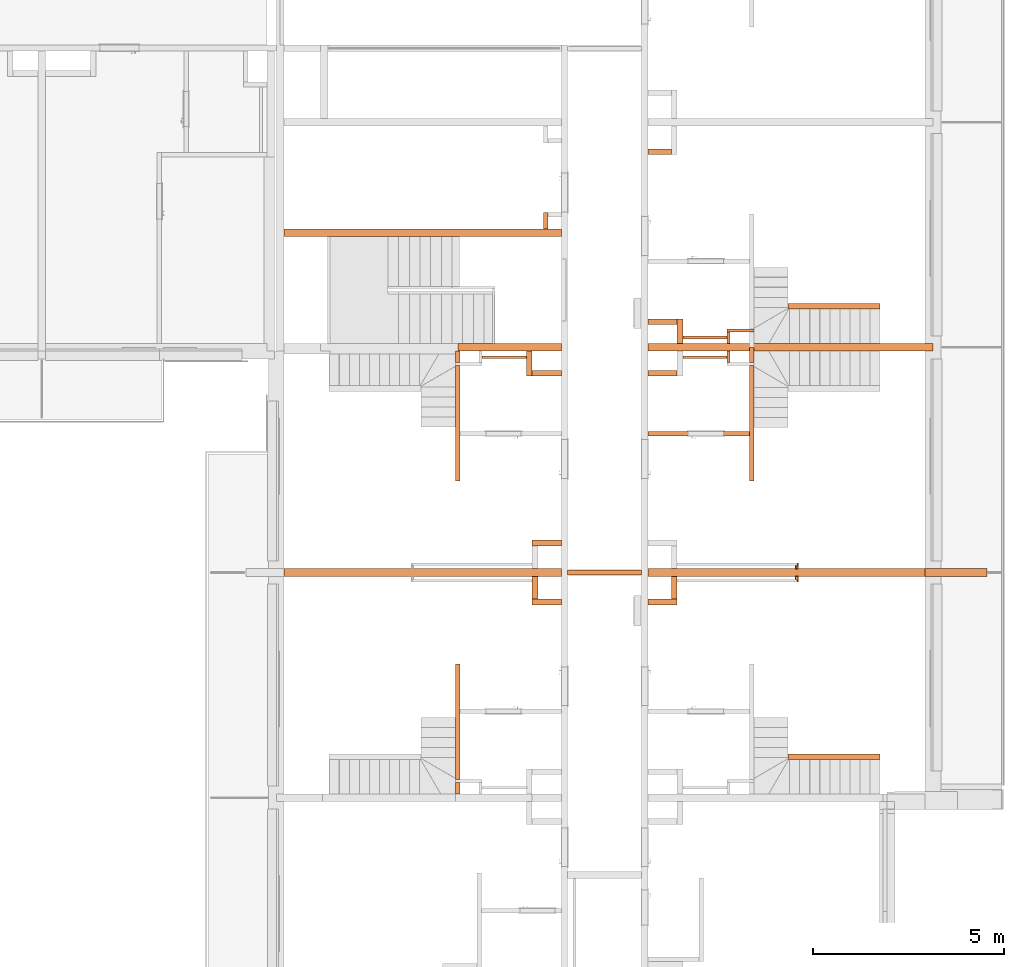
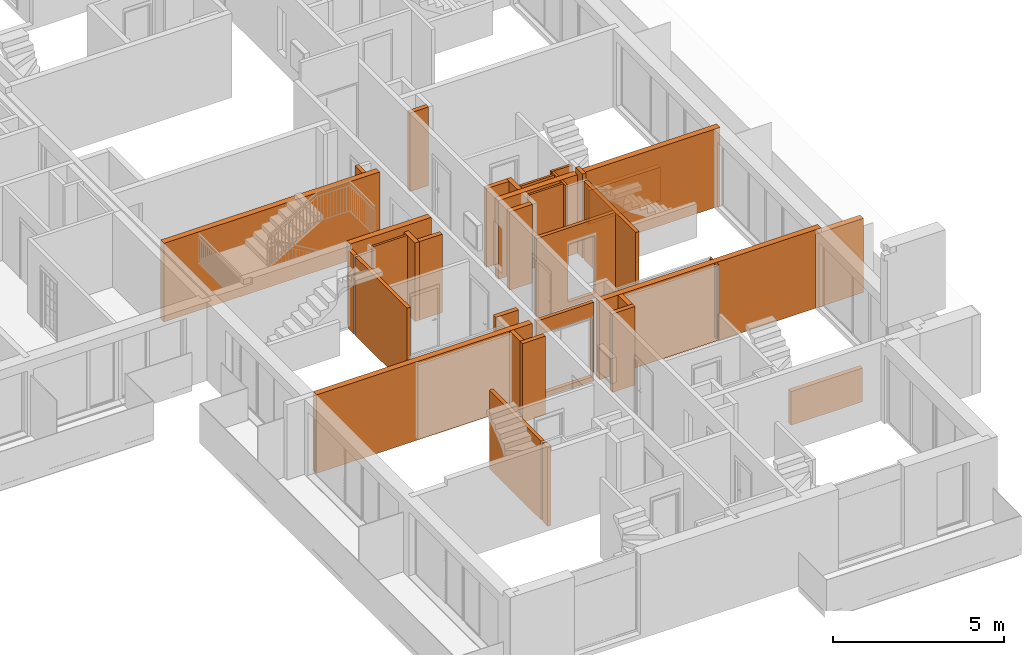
# One storey, part 59 of 61: 33 proxies, 2 openings.
"""IFC2X3 building model written with IfcOpenShell, lengths in millimetres."""

import ifcopenshell
import ifcopenshell.guid

model = None  # the IFC model being written
_history = None  # IfcOwnerHistory: only IFC2X3 demands one
_inside = {}  # id of a spatial element -> (the spatial element, [elements in it])
_under = {}  # id of a project, library or spatial element -> (it, [spatial elements below it])
_declared = {}  # id of a project -> (the project, [libraries it declares])
_typed = {}  # id of a type object -> (the type object, [elements of that type])
_made_of = {}  # id of a material, layer set ... -> (it, [elements and type objects made of it])


def new_model(schema):
    """Start an empty IFC model of exactly this schema.

    Asked for "IFC4X3", IfcOpenShell would pick the latest addendum, in which some entities
    have other attributes; the version numbers below select the first issue.
    IFC2X3 requires an IfcOwnerHistory on every rooted entity: one is made here for all.
    """
    global model, _history
    if schema == "IFC4X3":
        model = ifcopenshell.file(schema_version=(4, 3, 0, 0))
    else:
        model = ifcopenshell.file(schema=schema)
    _inside.clear()
    _under.clear()
    _declared.clear()
    _typed.clear()
    _made_of.clear()
    _history = None
    if model.schema == "IFC2X3":
        org = make("IfcOrganization", Name="unknown")
        user = make(
            "IfcPersonAndOrganization",
            ThePerson=make("IfcPerson", FamilyName="unknown"),
            TheOrganization=org,
        )
        app = make(
            "IfcApplication",
            ApplicationDeveloper=org,
            Version="unknown",
            ApplicationFullName="unknown",
            ApplicationIdentifier="unknown",
        )
        _history = make(
            "IfcOwnerHistory",
            OwningUser=user,
            OwningApplication=app,
            ChangeAction="ADDED",
            CreationDate=0,
        )
    return model


def make(cls, **values):
    """One entity of the class cls with the attributes given. An attribute that is None is left unset."""
    return model.create_entity(
        cls, **{name: value for name, value in values.items() if value is not None}
    )


def entity(cls, *values):
    """Any entity or typed value of the class cls, its attributes in the order of the schema. None: left unset."""
    e = model.create_entity(cls)
    for i, value in enumerate(values):
        if value is not None:
            e[i] = value
    return e


def rooted(cls, **values):
    """An entity with a GlobalId (a new one), such as an element, a storey or a relation."""
    return make(cls, GlobalId=ifcopenshell.guid.new(), OwnerHistory=_history, **values)


def si_unit(unit_type, name, prefix=None):
    """IfcSIUnit, for example si_unit("LENGTHUNIT", "METRE", prefix="MILLI")."""
    return make("IfcSIUnit", UnitType=unit_type, Prefix=prefix, Name=name)


def converted_unit(unit_type, name, factor, base, dimensions=None, offset=None):
    """IfcConversionBasedUnit, such as the inch: factor (a typed value) times the base unit."""
    return make(
        "IfcConversionBasedUnit"
        if offset is None
        else "IfcConversionBasedUnitWithOffset",
        ConversionOffset=offset,
        Dimensions=None
        if dimensions is None
        else entity("IfcDimensionalExponents", *dimensions),
        UnitType=unit_type,
        Name=name,
        ConversionFactor=make(
            "IfcMeasureWithUnit", ValueComponent=factor, UnitComponent=base
        ),
    )


def derived_unit(unit_type, elements):
    """IfcDerivedUnit: a product of units, each with its exponent."""
    return make(
        "IfcDerivedUnit",
        Elements=[
            make("IfcDerivedUnitElement", Unit=unit, Exponent=power)
            for unit, power in elements
        ],
        UnitType=unit_type,
    )


def money_unit(currency):
    """IfcMonetaryUnit."""
    return make("IfcMonetaryUnit", Currency=currency)


def assignment(units):
    """IfcUnitAssignment: the units of a project."""
    return None if units is None else make("IfcUnitAssignment", Units=units)


def point(xyz):
    """IfcCartesianPoint."""
    return None if xyz is None else make("IfcCartesianPoint", Coordinates=xyz)


def direction(xyz):
    """IfcDirection."""
    return None if xyz is None else make("IfcDirection", DirectionRatios=xyz)


def frame(location, z_axis=None, x_axis=None):
    """IfcAxis2Placement3D, a coordinate frame: its origin and axes. An axis left out is left unset."""
    return make(
        "IfcAxis2Placement3D",
        Location=point(location),
        Axis=direction(z_axis),
        RefDirection=direction(x_axis),
    )


def frame_2d(location, x_axis=None):
    """IfcAxis2Placement2D, a coordinate frame in the plane: its origin and x axis."""
    return make(
        "IfcAxis2Placement2D", Location=point(location), RefDirection=direction(x_axis)
    )


def origin_with_axes():
    """The frame at (0, 0, 0) with the z axis (0, 0, 1) and the x axis (1, 0, 0) written out."""
    return frame((0.0, 0.0, 0.0), z_axis=(0.0, 0.0, 1.0), x_axis=(1.0, 0.0, 0.0))


def origin_2d_with_axis():
    """The frame at (0, 0) in the plane with the x axis (1, 0) written out."""
    return frame_2d((0.0, 0.0), x_axis=(1.0, 0.0))


def place(relative_to, where):
    """IfcLocalPlacement: puts the frame where relative to a parent placement (None: the world)."""
    return make(
        "IfcLocalPlacement", PlacementRelTo=relative_to, RelativePlacement=where
    )


def context(
    kind, dimensions, precision=None, world=None, true_north=None, identifier=None
):
    """IfcGeometricRepresentationContext, for example the 3D "Model" context."""
    return make(
        "IfcGeometricRepresentationContext",
        ContextIdentifier=identifier,
        ContextType=kind,
        CoordinateSpaceDimension=dimensions,
        Precision=precision,
        WorldCoordinateSystem=world,
        TrueNorth=true_north,
    )


def subcontext(parent, identifier, kind, view, scale=None):
    """IfcGeometricRepresentationSubContext, for example "Body" below "Model"."""
    return make(
        "IfcGeometricRepresentationSubContext",
        ContextIdentifier=identifier,
        ContextType=kind,
        ParentContext=parent,
        TargetScale=scale,
        TargetView=view,
    )


def project(units=None, contexts=None):
    """IfcProject with its units and contexts."""
    return rooted(
        "IfcProject",
        Name="project",
        RepresentationContexts=contexts,
        UnitsInContext=assignment(units),
    )


def spatial(cls, under=None, at=None, **own):
    """A site, building, storey or space (cls), placed at a placement, below another one or the project."""
    s = rooted(cls, ObjectPlacement=at, **own)
    if under is not None:
        _under.setdefault(under.id(), (under, []))[1].append(s)
    return s


def profile(cls, at=None, kind="AREA", **sizes):
    """A parametric profile (cls). Its sizes go by their IFC names, for example OverallWidth=200.0."""
    return make(cls, ProfileType=kind, Position=at, **sizes)


def rectangle(**sizes):
    """IfcRectangleProfileDef."""
    return profile("IfcRectangleProfileDef", **sizes)


def extrude(swept, where, along, depth):
    """IfcExtrudedAreaSolid: the profile swept, set in the frame where, extruded along a direction by depth."""
    return make(
        "IfcExtrudedAreaSolid",
        SweptArea=swept,
        Position=where,
        ExtrudedDirection=direction(along),
        Depth=depth,
    )


def faces_of(points, faces, orient=None, outer=None):
    """IfcFace entities. A face is a list of loops; a loop is a list of indices into points, from 0.

    orient and outer hold one flag for each loop. By default every Orientation is true, the
    first loop of a face is its IfcFaceOuterBound and the others are IfcFaceBound.
    """
    made = []
    for i, loops in enumerate(faces):
        bounds = []
        for j, loop in enumerate(loops):
            is_outer = j == 0 if outer is None else outer[i][j]
            bounds.append(
                make(
                    "IfcFaceOuterBound" if is_outer else "IfcFaceBound",
                    Bound=make("IfcPolyLoop", Polygon=[points[k] for k in loop]),
                    Orientation=True if orient is None else orient[i][j],
                )
            )
        made.append(make("IfcFace", Bounds=bounds))
    return made


def faceted_brep(points, faces, orient=None, outer=None, voids=None):
    """IfcFacetedBrep: a solid bounded by flat faces; with voids (closed shells), ...WithVoids."""
    shared = [point(p) for p in points]
    hull = make("IfcClosedShell", CfsFaces=faces_of(shared, faces, orient, outer))
    if voids is None:
        return make("IfcFacetedBrep", Outer=hull)
    return make(
        "IfcFacetedBrepWithVoids",
        Outer=hull,
        Voids=[
            make(cls, CfsFaces=faces_of(shared, fs, o, b)) for cls, fs, o, b in voids
        ],
    )


def shape(context_of_items, identifier, shape_type, items):
    """IfcShapeRepresentation: the items that make up one representation, for example the "Body"."""
    return make(
        "IfcShapeRepresentation",
        ContextOfItems=context_of_items,
        RepresentationIdentifier=identifier,
        RepresentationType=shape_type,
        Items=items,
    )


def material(Name=None, Category=None):
    """IfcMaterial."""
    return make("IfcMaterial", Name=Name, Category=Category)


def material_list(materials):
    """IfcMaterialList."""
    return make("IfcMaterialList", Materials=materials)


def made_of(thing, what):
    """Note that an element or type object is made of a material, layer set ...; save() writes the relation."""
    if what is not None:
        _made_of.setdefault(what.id(), (what, []))[1].append(thing)
    return thing


def type_object(cls, material=None, **own):
    """A type object (cls), such as IfcWallType, which elements share."""
    return made_of(rooted(cls, **own), material)


def element(
    cls,
    number,
    at=None,
    inside=None,
    cuts=None,
    type_object=None,
    material=None,
    context=None,
    identifier="Body",
    shape_type=None,
    held_by="IfcProductDefinitionShape",
    body=None,
    shapes=None,
    **own,
):
    """One element of the class cls, such as IfcWall. Its Tag is "e" and its number.

    at: its placement. inside: the storey or other place that contains it. cuts: it is an
    opening in that element (IfcRelVoidsElement). A single representation is given by context,
    identifier, shape_type and body (its items); several are given by shapes. held_by: the class
    of the entity that holds the representations. save() writes the other relations.
    """
    e = rooted(cls, Tag="e%d" % number, ObjectPlacement=at, **own)
    if body is not None:
        shapes = [shape(context, identifier, shape_type, body)]
    if shapes is not None:
        e.Representation = make(held_by, Representations=shapes)
    if inside is not None:
        _inside.setdefault(inside.id(), (inside, []))[1].append(e)
    if cuts is not None:
        rooted(
            "IfcRelVoidsElement", RelatingBuildingElement=cuts, RelatedOpeningElement=e
        )
    if type_object is not None:
        _typed.setdefault(type_object.id(), (type_object, []))[1].append(e)
    return made_of(e, material)


def aggregate(whole, parts):
    """IfcRelAggregates: a whole, such as a stair, and the parts it consists of."""
    return rooted("IfcRelAggregates", RelatingObject=whole, RelatedObjects=parts)


def save(model, path):
    """Write the relations noted so far, then the file.

    IfcRelAggregates (storeys below a building ...), IfcRelContainedInSpatialStructure (elements
    in a storey), IfcRelDefinesByType, IfcRelAssociatesMaterial and IfcRelDeclares: one each for
    every whole, place, type object, material and project.
    """
    for whole, parts in _under.values():
        aggregate(whole, parts)
    for where, things in _inside.values():
        rooted(
            "IfcRelContainedInSpatialStructure",
            RelatedElements=things,
            RelatingStructure=where,
        )
    for kind, things in _typed.values():
        rooted("IfcRelDefinesByType", RelatedObjects=things, RelatingType=kind)
    for what, things in _made_of.values():
        rooted("IfcRelAssociatesMaterial", RelatedObjects=things, RelatingMaterial=what)
    for by, libraries in _declared.values():
        rooted("IfcRelDeclares", RelatingContext=by, RelatedDefinitions=libraries)
    model.write(path)


model = new_model("IFC2X3")

# Units and contexts
model_context = context("Model", 3, precision=0.01, world=origin_with_axes(), true_north=direction((0.34421633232, 0.938890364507)))
body_context = subcontext(model_context, "Body", "Model", "MODEL_VIEW")
ifc_project = project(units=[si_unit("LENGTHUNIT", "METRE", prefix="MILLI"), si_unit("AREAUNIT", "SQUARE_METRE"), si_unit("VOLUMEUNIT", "CUBIC_METRE"), converted_unit("PLANEANGLEUNIT", "DEGREE", entity("IfcPlaneAngleMeasure", 0.0174532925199), si_unit("PLANEANGLEUNIT", "RADIAN"), dimensions=[0, 0, 0, 0, 0, 0, 0]), si_unit("SOLIDANGLEUNIT", "STERADIAN"), money_unit("USD"), converted_unit("TIMEUNIT", "Year", entity("IfcTimeMeasure", 31556926.0), si_unit("TIMEUNIT", "SECOND"), dimensions=[0, 0, 1, 0, 0, 0, 0]), si_unit("MASSUNIT", "GRAM", prefix="KILO"), si_unit("THERMODYNAMICTEMPERATUREUNIT", "DEGREE_CELSIUS"), si_unit("LUMINOUSINTENSITYUNIT", "LUMEN"), si_unit("ENERGYUNIT", "JOULE", prefix="MEGA"), derived_unit("THERMALCONDUCTANCEUNIT", [(si_unit("POWERUNIT", "WATT"), 1), (si_unit("LENGTHUNIT", "METRE"), -1), (si_unit("THERMODYNAMICTEMPERATUREUNIT", "KELVIN"), -1)]), derived_unit("SPECIFICHEATCAPACITYUNIT", [(si_unit("ENERGYUNIT", "JOULE"), 1), (si_unit("MASSUNIT", "GRAM", prefix="KILO"), -1), (si_unit("THERMODYNAMICTEMPERATUREUNIT", "KELVIN"), -1)]), derived_unit("MASSDENSITYUNIT", [(si_unit("MASSUNIT", "GRAM", prefix="KILO"), 1), (si_unit("VOLUMEUNIT", "CUBIC_METRE"), -1)])], contexts=[model_context])

# Site, building, storey
site_placement = place(None, origin_with_axes())
site = spatial("IfcSite", under=ifc_project, at=site_placement, Name="USTRONIE MORSKIE", CompositionType="ELEMENT")
building_placement = place(site_placement, origin_with_axes())
building = spatial("IfcBuilding", under=site, at=building_placement, Name="Budynek", CompositionType="ELEMENT")
storey_placement = place(building_placement, frame((0.0, 0.0, 13000.0), z_axis=(0.0, 0.0, 1.0), x_axis=(1.0, 0.0, 0.0)))
storey = spatial("IfcBuildingStorey", under=building, at=storey_placement, Name="PIĘTRO 4", CompositionType="ELEMENT", Elevation=13000.0)

# Proxy, opening
ifc_material_1 = material(Name="Bloczki silikatowe")
building_element_proxy_type_1 = type_object("IfcBuildingElementProxyType", Name="Bloczki silikatowe 120", PredefinedType="NOTDEFINED")
proxy_1_placement = place(storey_placement, frame((420917.920919, 724641.180542, -160.0), z_axis=(0.0, 0.0, 1.0), x_axis=(-1.0, 0.0, 0.0)))
proxy_1 = element("IfcBuildingElementProxy", 1, at=proxy_1_placement, inside=storey, type_object=building_element_proxy_type_1, material=ifc_material_1, Name="SW-04", context=body_context, shape_type="Brep", body=[
    faceted_brep([(2720.0, 59.9999999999, 0.0), (2720.0, -59.9999999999, 0.0), (60.0, -59.9999999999, 0.0), (60.0, 59.9999999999, 0.0), (2720.0, 59.9999999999, 2800.0), (2720.0, -59.9999999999, 2800.0), (60.0, -59.9999999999, 2800.0), (60.0, 59.9999999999, 2800.0)], [[[0, 1, 2, 3]], [[1, 0, 4, 5]], [[1, 5, 6, 2]], [[7, 3, 2, 6]], [[4, 0, 3, 7]], [[5, 4, 7, 6]]]),
])
opening_1_placement = place(proxy_1_placement, frame((1200.0, 0.0, 160.0), z_axis=(0.0, 0.0, 1.0), x_axis=(1.0, 0.0, 0.0)))
element("IfcOpeningElement", 2, at=opening_1_placement, cuts=proxy_1, Name="Dw.4", context=body_context, shape_type="SweptSolid", body=[
    extrude(rectangle(XDim=920.0, YDim=2070.0, at=origin_2d_with_axis()), frame((0.0, -120.0, 1035.0), z_axis=(0.0, -1.0, 0.0), x_axis=(-1.0, 0.0, 0.0)), (0.0, 0.0, -1.0), 360.0),
    extrude(rectangle(XDim=994.0, YDim=2177.0, at=origin_2d_with_axis()), frame((0.0, -59.9999999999, 1088.5), z_axis=(0.0, -1.0, 0.0), x_axis=(-1.0, 0.0, 0.0)), (0.0, 0.0, 1.0), 120.0),
    extrude(rectangle(XDim=994.0, YDim=2177.0, at=origin_2d_with_axis()), frame((0.0, 60.0000000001, 1088.5), z_axis=(0.0, 1.0, 0.0), x_axis=(-1.0, 0.0, 0.0)), (0.0, 0.0, 1.0), 120.0),
])

# Proxy
proxy_2_placement = place(storey_placement, frame((413217.920919, 715101.199036, -160.0), z_axis=(0.0, 0.0, 1.0), x_axis=(0.0, 1.0, 0.0)))
element("IfcBuildingElementProxy", 3, at=proxy_2_placement, inside=storey, type_object=building_element_proxy_type_1, material=ifc_material_1, Name="SW-04", context=body_context, shape_type="Brep", body=[
    faceted_brep([(480.000444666, 60.0, 0.0), (3499.99837346, 60.0, 0.0), (3499.99837346, -60.0, 0.0), (480.000444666, -60.0, 0.0), (480.000444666, 60.0, 2800.0), (3499.99837346, 60.0, 2800.0), (3499.99837346, -60.0, 2800.0), (480.000444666, -60.0, 2800.0)], [[[0, 1, 2, 3]], [[4, 5, 1, 0]], [[2, 1, 5, 6]], [[3, 2, 6, 7]], [[4, 0, 3, 7]], [[7, 6, 5, 4]]]),
    faceted_brep([(400.000444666, 60.0, 0.0), (400.000444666, -60.0, 0.0), (99.9999880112, -60.0, 0.0), (99.9999874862, 60.0, 0.0), (400.000444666, 60.0, 2800.0), (400.000444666, -60.0, 2800.0), (99.9999880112, -60.0, 2800.0), (99.9999874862, 60.0, 2800.0)], [[[0, 1, 2, 3]], [[1, 0, 4, 5]], [[1, 5, 6, 2]], [[7, 3, 2, 6]], [[4, 0, 3, 7]], [[5, 4, 7, 6]]]),
])

# Proxy, opening
proxy_3_placement = place(storey_placement, frame((416017.920919, 721001.199036, -160.0), z_axis=(0.0, 0.0, 1.0), x_axis=(1.0, 0.0, 0.0)))
proxy_3 = element("IfcBuildingElementProxy", 4, at=proxy_3_placement, inside=storey, type_object=building_element_proxy_type_1, material=ifc_material_1, Name="SW-04", context=body_context, shape_type="Brep", body=[
    faceted_brep([(2020.0, 59.9999999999, 0.0), (80.0, 59.9999999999, 0.0), (80.0, 59.9999999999, 2800.0), (2020.0, 59.9999999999, 2800.0), (2020.0, -59.9999999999, 0.0), (80.0, -59.9999999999, 0.0), (80.0, -59.9999999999, 2800.0), (2020.0, -59.9999999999, 2800.0)], [[[0, 1, 2, 3]], [[4, 5, 1, 0]], [[5, 6, 2, 1]], [[3, 2, 6, 7]], [[3, 7, 4, 0]], [[7, 6, 5, 4]]]),
])
opening_2_placement = place(proxy_3_placement, frame((1050.0, 0.0, 160.0), z_axis=(0.0, 0.0, 1.0), x_axis=(1.0, 0.0, 0.0)))
element("IfcOpeningElement", 5, at=opening_2_placement, cuts=proxy_3, Name="Dw.5s", context=body_context, shape_type="SweptSolid", body=[
    extrude(rectangle(XDim=1820.0, YDim=2120.0, at=origin_2d_with_axis()), frame((0.0, -120.0, 1060.0), z_axis=(0.0, 1.0, 0.0), x_axis=(1.0, 0.0, 0.0)), (0.0, 0.0, 1.0), 360.0),
    extrude(rectangle(XDim=1894.0, YDim=2157.0, at=origin_2d_with_axis()), frame((0.0, -59.9999999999, 1078.5), z_axis=(0.0, 1.0, 0.0), x_axis=(1.0, 0.0, 0.0)), (0.0, 0.0, -1.0), 120.0),
    extrude(rectangle(XDim=1894.0, YDim=2157.0, at=origin_2d_with_axis()), frame((0.0, 60.0000000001, 1078.5), z_axis=(0.0, -1.0, 0.0), x_axis=(1.0, 0.0, 0.0)), (0.0, 0.0, -1.0), 120.0),
])

# Proxies
proxy_4_placement = place(storey_placement, frame((420917.920919, 726901.198998, -160.0), z_axis=(0.0, 0.0, 1.0), x_axis=(0.0, -1.0, 0.0)))
element("IfcBuildingElementProxy", 6, at=proxy_4_placement, inside=storey, type_object=building_element_proxy_type_1, material=ifc_material_1, Name="SW-04", context=body_context, shape_type="Brep", body=[
    faceted_brep([(480.000444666, -60.0, 2800.0), (3499.97686691, -60.0, 2800.0), (3499.97686691, 60.0, 2800.0), (2099.99996266, 60.0, 2800.0), (480.000444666, 60.0, 2800.0), (3499.97686691, -60.0, 0.0), (480.000444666, -60.0, 0.0), (3499.97686691, 60.0, 0.0), (480.000444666, 60.0, 0.0)], [[[0, 1, 2, 3, 4]], [[5, 1, 0, 6]], [[7, 2, 1, 5]], [[4, 3, 2, 7, 8]], [[6, 0, 4, 8]], [[7, 5, 6, 8]]]),
    faceted_brep([(0.0, -60.0, 3000.0), (400.000444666, -60.0, 3000.0), (400.000444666, 60.0, 3000.0), (0.0, 60.0, 3000.0), (400.000444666, -60.0, 0.0), (400.000444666, -60.0, 2800.0), (0.0, -60.0, 2800.0), (99.9999622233, -60.0, 2800.0), (99.9999622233, -60.0, 0.0), (400.000444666, 60.0, 2800.0), (400.000444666, 60.0, 0.0), (99.9999622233, 60.0, 0.0), (99.9999622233, 60.0, 2800.0), (0.0, 60.0, 2800.0)], [[[0, 1, 2, 3]], [[4, 5, 1, 0, 6, 7, 8]], [[5, 9, 2, 1]], [[3, 2, 9, 10, 11, 12, 13]], [[0, 3, 13, 6]], [[10, 9, 5, 4]], [[12, 7, 6, 13]], [[8, 7, 12, 11]], [[8, 11, 10, 4]]]),
])
proxy_5_placement = place(storey_placement, frame((413217.920919, 726901.198998, -160.0), z_axis=(0.0, 0.0, 1.0), x_axis=(0.0, -1.0, 0.0)))
element("IfcBuildingElementProxy", 7, at=proxy_5_placement, inside=storey, type_object=building_element_proxy_type_1, material=ifc_material_1, Name="SW-04", context=body_context, shape_type="Brep", body=[
    faceted_brep([(400.000444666, 60.0, 0.0), (99.9999622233, 60.0, 0.0), (99.9999622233, 60.0, 2800.0), (400.000444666, 60.0, 2800.0), (99.9999622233, -60.0, 0.0), (99.9999622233, 0.0, 0.0), (400.000444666, -60.0, 0.0), (99.9999622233, 0.0, 2800.0), (99.9999622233, -60.0, 2800.0), (400.000444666, -60.0, 2800.0)], [[[0, 1, 2, 3]], [[4, 5, 1, 0, 6]], [[5, 7, 2, 1]], [[2, 7, 8, 9, 3]], [[6, 0, 3, 9]], [[4, 8, 7, 5]], [[9, 8, 4, 6]]]),
    faceted_brep([(480.000444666, 60.0, 0.0), (480.000444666, 60.0, 2800.0), (3499.97686691, 60.0, 2800.0), (3499.97686691, 60.0, 0.0), (480.000444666, -60.0, 2800.0), (480.000444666, -60.0, 0.0), (3499.97686691, -60.0, 2800.0), (3499.97686691, -60.0, 0.0)], [[[0, 1, 2, 3]], [[4, 1, 0, 5]], [[1, 4, 6, 2]], [[3, 2, 6, 7]], [[5, 0, 3, 7]], [[4, 5, 7, 6]]]),
])
proxy_6_placement = place(storey_placement, frame((415587.920919, 729901.198865, -160.0), z_axis=(0.0, 0.0, 1.0), x_axis=(0.0, 1.0, 0.0)))
element("IfcBuildingElementProxy", 8, at=proxy_6_placement, inside=storey, type_object=building_element_proxy_type_1, material=ifc_material_1, Name="SW-04", context=body_context, shape_type="Brep", body=[
    faceted_brep([(540.000171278, 120.0, 0.0), (540.000171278, 0.0, 0.0), (100.000152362, 0.0, 0.0), (100.000147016, 120.0, 0.0), (540.000171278, 120.0, 2800.0), (540.000171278, 0.0, 2800.0), (100.000152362, 0.0, 2800.0), (100.000147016, 120.0, 2800.0)], [[[0, 1, 2, 3]], [[1, 0, 4, 5]], [[1, 5, 6, 2]], [[7, 3, 2, 6]], [[4, 0, 3, 7]], [[5, 4, 7, 6]]]),
])
ifc_material_2 = material(Name="Płyta GK")
ifc_material_3 = material(Name="-Pustka powietrzna")
ifc_material_list_1 = material_list([ifc_material_2, ifc_material_2, ifc_material_3])
building_element_proxy_type_2 = type_object("IfcBuildingElementProxyType", Name="330-SD GK 2-warstwy 75", PredefinedType="NOTDEFINED")
proxy_7_placement = place(storey_placement, frame((422117.920919, 721001.199036, -180.0), z_axis=(0.0, 0.0, 1.0), x_axis=(0.0, -1.0, 0.0)))
element("IfcBuildingElementProxy", 9, at=proxy_7_placement, inside=storey, type_object=building_element_proxy_type_2, material=ifc_material_list_1, Name="Ściana-009", context=body_context, shape_type="Brep", body=[
    faceted_brep([(242.5, 25.0, 165.0), (100.0, 25.0, 165.0), (100.0, 25.0, 2819.99999891), (242.5, 25.0, 2820.0), (100.0, 12.5, 165.0), (242.5, 12.5, 165.0), (100.0, 12.5, 2819.99999891), (242.5, 12.5, 2820.0)], [[[0, 1, 2, 3]], [[4, 1, 0, 5]], [[1, 4, 6, 2]], [[3, 2, 6, 7]], [[5, 0, 3, 7]], [[4, 5, 7, 6]]]),
    faceted_brep([(230.0, 12.5, 165.0), (100.0, 12.5, 165.0), (100.0, 12.5, 2819.99999891), (230.0, 12.5, 2820.0), (100.0, 0.0, 165.0), (230.0, 0.0, 165.0), (100.0, 0.0, 2819.99999892), (230.0, 0.0, 2820.0)], [[[0, 1, 2, 3]], [[4, 1, 0, 5]], [[1, 4, 6, 2]], [[3, 2, 6, 7]], [[5, 0, 3, 7]], [[4, 5, 7, 6]]]),
    faceted_brep([(180.0, 0.0, 180.0), (100.0, 0.0, 180.0), (100.0, 0.0, 2819.99999892), (180.0, 0.0, 2820.0), (100.0, -50.0, 180.0), (180.0, -50.0, 180.0), (100.0, -50.0, 2819.99999893), (180.0, -50.0, 2820.0)], [[[0, 1, 2, 3]], [[4, 1, 0, 5]], [[1, 4, 6, 2]], [[3, 2, 6, 7]], [[5, 0, 3, 7]], [[4, 5, 7, 6]]]),
])
proxy_8_placement = place(storey_placement, frame((420317.920919, 726631.200807, -180.0), z_axis=(0.0, 0.0, 1.0), x_axis=(-1.0, 0.0, 0.0)))
element("IfcBuildingElementProxy", 10, at=proxy_8_placement, inside=storey, type_object=building_element_proxy_type_2, material=ifc_material_list_1, Name="Ściana-009", context=body_context, shape_type="Brep", body=[
    faceted_brep([(40.0, 25.0, 165.0), (40.0, 12.5, 165.0), (40.0, 12.5, 2820.0), (40.0, 25.0, 2820.0), (1199.99909883, 12.5, 165.0), (1199.99909883, 25.0, 165.0), (1199.99909883, 12.5, 2820.0), (1199.99909883, 25.0, 2820.0)], [[[0, 1, 2, 3]], [[4, 1, 0, 5]], [[1, 4, 6, 2]], [[2, 6, 7, 3]], [[5, 0, 3, 7]], [[4, 5, 7, 6]]]),
    faceted_brep([(40.0, 12.5, 165.0), (40.0, 0.0, 165.0), (40.0, 0.0, 2820.0), (40.0, 12.5, 2820.0), (1199.99909883, 0.0, 165.0), (1199.99909883, 12.5, 165.0), (1199.99909883, 0.0, 2820.0), (1199.99909883, 12.5, 2820.0)], [[[0, 1, 2, 3]], [[4, 1, 0, 5]], [[1, 4, 6, 2]], [[2, 6, 7, 3]], [[5, 0, 3, 7]], [[4, 5, 7, 6]]]),
    faceted_brep([(40.0, 0.0, 180.0), (40.0, -50.0, 180.0), (40.0, -50.0, 2820.0), (40.0, 0.0, 2820.0), (1199.99909883, -50.0, 180.0), (1199.99909883, 0.0, 180.0), (1199.99909883, -50.0, 2820.0), (1199.99909883, 0.0, 2820.0)], [[[0, 1, 2, 3]], [[4, 1, 0, 5]], [[1, 4, 6, 2]], [[2, 6, 7, 3]], [[5, 0, 3, 7]], [[4, 5, 7, 6]]]),
])
ifc_material_list_2 = material_list([ifc_material_3, ifc_material_2, ifc_material_2])
proxy_9_placement = place(storey_placement, frame((420317.920919, 727171.200737, -180.0), z_axis=(0.0, 0.0, 1.0), x_axis=(-1.0, 0.0, 0.0)))
element("IfcBuildingElementProxy", 11, at=proxy_9_placement, inside=storey, type_object=building_element_proxy_type_2, material=ifc_material_list_2, Name="Ściana-009", context=body_context, shape_type="Brep", body=[
    faceted_brep([(40.0, 50.0, 180.0), (40.0, 0.0, 180.0), (40.0, 0.0, 2820.0), (40.0, 50.0, 2820.0), (1199.99909883, 0.0, 180.0), (1199.99909883, 50.0, 180.0), (1199.99909883, 0.0, 2820.0), (1199.99909883, 50.0, 2820.0)], [[[0, 1, 2, 3]], [[4, 1, 0, 5]], [[1, 4, 6, 2]], [[2, 6, 7, 3]], [[5, 0, 3, 7]], [[4, 5, 7, 6]]]),
    faceted_brep([(40.0, 0.0, 165.0), (40.0, -12.5, 165.0), (40.0, -12.5, 2820.0), (40.0, 0.0, 2820.0), (1199.99909883, -12.5, 165.0), (1199.99909883, 0.0, 165.0), (1199.99909883, -12.5, 2820.0), (1199.99909883, 0.0, 2820.0)], [[[0, 1, 2, 3]], [[4, 1, 0, 5]], [[1, 4, 6, 2]], [[2, 6, 7, 3]], [[5, 0, 3, 7]], [[4, 5, 7, 6]]]),
    faceted_brep([(40.0, -12.5, 165.0), (40.0, -25.0, 165.0), (40.0, -25.0, 2820.0), (40.0, -12.5, 2820.0), (1199.99909883, -25.0, 165.0), (1199.99909883, -12.5, 165.0), (1199.99909883, -25.0, 2820.0), (1199.99909883, -12.5, 2820.0)], [[[0, 1, 2, 3]], [[4, 1, 0, 5]], [[1, 4, 6, 2]], [[2, 6, 7, 3]], [[5, 0, 3, 7]], [[4, 5, 7, 6]]]),
])
proxy_10_placement = place(storey_placement, frame((422117.920919, 721001.199036, -180.0), z_axis=(0.0, 0.0, 1.0), x_axis=(0.0, 1.0, 0.0)))
element("IfcBuildingElementProxy", 12, at=proxy_10_placement, inside=storey, type_object=building_element_proxy_type_2, material=ifc_material_list_2, Name="Ściana-009", context=body_context, shape_type="Brep", body=[
    faceted_brep([(100.0, 0.0, 180.0), (180.0, 0.0, 180.0), (180.0, 0.0, 2820.0), (100.0, 0.0, 2819.99999892), (180.0, 50.0, 180.0), (100.0, 50.0, 180.0), (180.0, 50.0, 2820.0), (100.0, 50.0, 2819.99999893)], [[[0, 1, 2, 3]], [[4, 1, 0, 5]], [[1, 4, 6, 2]], [[6, 7, 3, 2]], [[5, 0, 3, 7]], [[4, 5, 7, 6]]]),
    faceted_brep([(100.0, -12.5, 165.0), (230.0, -12.5, 165.0), (230.0, -12.5, 2820.0), (100.0, -12.5, 2819.99999891), (230.0, 0.0, 165.0), (100.0, 0.0, 165.0), (230.0, 0.0, 2820.0), (100.0, 0.0, 2819.99999892)], [[[0, 1, 2, 3]], [[4, 1, 0, 5]], [[1, 4, 6, 2]], [[6, 7, 3, 2]], [[5, 0, 3, 7]], [[4, 5, 7, 6]]]),
    faceted_brep([(100.0, -25.0, 165.0), (242.5, -25.0, 165.0), (242.5, -25.0, 2820.0), (100.0, -25.0, 2819.99999891), (242.5, -12.5, 165.0), (100.0, -12.5, 165.0), (242.5, -12.5, 2820.0), (100.0, -12.5, 2819.99999891)], [[[0, 1, 2, 3]], [[4, 1, 0, 5]], [[1, 4, 6, 2]], [[6, 7, 3, 2]], [[5, 0, 3, 7]], [[4, 5, 7, 6]]]),
])
proxy_11_placement = place(storey_placement, frame((413817.920919, 726631.200807, -180.0), z_axis=(0.0, 0.0, 1.0), x_axis=(1.0, 0.0, 0.0)))
element("IfcBuildingElementProxy", 13, at=proxy_11_placement, inside=storey, type_object=building_element_proxy_type_2, material=ifc_material_list_2, Name="Ściana-009", context=body_context, shape_type="Brep", body=[
    faceted_brep([(1199.99909883, 0.0, 180.0), (1199.99909883, 50.0, 180.0), (1199.99909883, 50.0, 2820.0), (1199.99909883, 0.0, 2820.0), (40.0, 50.0, 180.0), (40.0, 0.0, 180.0), (40.0, 50.0, 2820.0), (40.0, 0.0, 2820.0)], [[[0, 1, 2, 3]], [[4, 1, 0, 5]], [[1, 4, 6, 2]], [[7, 3, 2, 6]], [[5, 0, 3, 7]], [[4, 5, 7, 6]]]),
    faceted_brep([(1199.99909883, -12.5, 165.0), (1199.99909883, 0.0, 165.0), (1199.99909883, 0.0, 2820.0), (1199.99909883, -12.5, 2820.0), (40.0, 0.0, 165.0), (40.0, -12.5, 165.0), (40.0, 0.0, 2820.0), (40.0, -12.5, 2820.0)], [[[0, 1, 2, 3]], [[4, 1, 0, 5]], [[1, 4, 6, 2]], [[7, 3, 2, 6]], [[5, 0, 3, 7]], [[4, 5, 7, 6]]]),
    faceted_brep([(1199.99909883, -25.0, 165.0), (1199.99909883, -12.5, 165.0), (1199.99909883, -12.5, 2820.0), (1199.99909883, -25.0, 2820.0), (40.0, -12.5, 165.0), (40.0, -25.0, 165.0), (40.0, -12.5, 2820.0), (40.0, -25.0, 2820.0)], [[[0, 1, 2, 3]], [[4, 1, 0, 5]], [[1, 4, 6, 2]], [[7, 3, 2, 6]], [[5, 0, 3, 7]], [[4, 5, 7, 6]]]),
])
building_element_proxy_type_3 = type_object("IfcBuildingElementProxyType", Name="Bloczki silikatowe 80", PredefinedType="NOTDEFINED")
proxy_12_placement = place(storey_placement, frame((420317.920919, 726901.199036, -160.0), z_axis=(0.0, 0.0, 1.0), x_axis=(0.0, 1.0, 0.0)))
element("IfcBuildingElementProxy", 14, at=proxy_12_placement, inside=storey, type_object=building_element_proxy_type_3, material=ifc_material_1, Name="Ściana-010", context=body_context, shape_type="Brep", body=[
    faceted_brep([(400.000482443, -40.0, 2800.0), (400.000482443, 40.0, 2800.0), (100.0, 40.0, 2800.0), (100.0, -40.0, 2800.0), (400.000482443, -40.0, 0.0), (400.000482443, 40.0, 0.0), (100.0, 40.0, 0.0), (100.0, -40.0, 0.0)], [[[0, 1, 2, 3]], [[1, 0, 4, 5]], [[1, 5, 6, 2]], [[7, 3, 2, 6]], [[4, 0, 3, 7]], [[5, 4, 7, 6]]]),
])
proxy_13_placement = place(storey_placement, frame((420317.920919, 726901.199036, -160.0), z_axis=(0.0, 0.0, 1.0), x_axis=(0.0, -1.0, 0.0)))
element("IfcBuildingElementProxy", 15, at=proxy_13_placement, inside=storey, type_object=building_element_proxy_type_3, material=ifc_material_1, Name="Ściana-010", context=body_context, shape_type="Brep", body=[
    faceted_brep([(400.000482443, 40.0, 0.0), (100.0, 40.0, 0.0), (100.0, 40.0, 2800.0), (400.000482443, 40.0, 2800.0), (400.000482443, -40.0, 0.0), (100.0, -40.0, 0.0), (100.0, -40.0, 2800.0), (400.000482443, -40.0, 2800.0)], [[[0, 1, 2, 3]], [[4, 5, 1, 0]], [[5, 6, 2, 1]], [[3, 2, 6, 7]], [[3, 7, 4, 0]], [[7, 6, 5, 4]]]),
])
proxy_14_placement = place(storey_placement, frame((420917.920919, 727341.199519, -160.0), z_axis=(0.0, 0.0, 1.0), x_axis=(-1.0, 0.0, 0.0)))
element("IfcBuildingElementProxy", 16, at=proxy_14_placement, inside=storey, type_object=building_element_proxy_type_3, material=ifc_material_1, Name="Ściana-009", context=body_context, shape_type="Brep", body=[
    faceted_brep([(640.0, -40.0, 2800.0), (640.0, 40.0, 2800.0), (-60.0, 40.0, 2800.0), (-60.0, -40.0, 2800.0), (640.0, -40.0, 0.0), (640.0, 40.0, 0.0), (-60.0, 40.0, 0.0), (-60.0, -40.0, 0.0)], [[[0, 1, 2, 3]], [[1, 0, 4, 5]], [[1, 5, 6, 2]], [[7, 3, 2, 6]], [[4, 0, 3, 7]], [[5, 4, 7, 6]]]),
])
building_element_proxy_type_4 = type_object("IfcBuildingElementProxyType", Name="Bloczki silikatowe 150", PredefinedType="NOTDEFINED")
proxy_15_placement = place(storey_placement, frame((415092.920018, 726226.197058, -160.0), z_axis=(0.0, 0.0, 1.0), x_axis=(1.0, 0.0, 0.0)))
element("IfcBuildingElementProxy", 17, at=proxy_15_placement, inside=storey, type_object=building_element_proxy_type_4, material=ifc_material_1, Name="SW-03", context=body_context, shape_type="Brep", body=[
    faceted_brep([(845.00090117, -75.0, 2800.0), (845.00090117, 75.0, 2800.0), (75.0, 75.0, 2800.0), (75.0, -75.0, 2800.0), (845.00090117, -75.0, 0.0), (845.00090117, 75.0, 0.0), (75.0, 75.0, 0.0), (75.0, -75.0, 0.0)], [[[0, 1, 2, 3]], [[1, 0, 4, 5]], [[1, 5, 6, 2]], [[7, 3, 2, 6]], [[4, 0, 3, 7]], [[5, 4, 7, 6]]]),
])
proxy_16_placement = place(storey_placement, frame((415317.920919, 721001.199036, -160.0), z_axis=(0.0, 0.0, 1.0), x_axis=(0.0, -1.0, 0.0)))
element("IfcBuildingElementProxy", 18, at=proxy_16_placement, inside=storey, type_object=building_element_proxy_type_4, material=ifc_material_1, Name="SW-03", context=body_context, shape_type="Brep", body=[
    faceted_brep([(699.955759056, -150.0, 2800.0), (699.955759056, 0.0, 2800.0), (100.0, 0.0, 2800.0), (100.0, -150.0, 2800.0), (699.955759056, -150.0, 0.0), (699.955759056, 0.0, 0.0), (100.0, 0.0, 0.0), (100.0, -150.0, 0.0)], [[[0, 1, 2, 3]], [[1, 0, 4, 5]], [[1, 5, 6, 2]], [[7, 3, 2, 6]], [[4, 0, 3, 7]], [[5, 4, 7, 6]]]),
])
proxy_17_placement = place(storey_placement, frame((419042.92182, 726901.200134, -160.0), z_axis=(0.0, 0.0, 1.0), x_axis=(0.0, 1.0, 0.0)))
element("IfcBuildingElementProxy", 19, at=proxy_17_placement, inside=storey, type_object=building_element_proxy_type_4, material=ifc_material_1, Name="SW-03", context=body_context, shape_type="Brep", body=[
    faceted_brep([(750.000879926, 75.0, 2800.0), (99.9989021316, 75.0, 2800.0), (99.9989021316, -75.0, 2800.0), (750.000879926, -75.0, 2800.0), (750.000879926, 75.0, 0.0), (99.9989021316, 75.0, 0.0), (99.9989021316, -75.0, 0.0), (750.000879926, -75.0, 0.0)], [[[0, 1, 2, 3]], [[4, 5, 1, 0]], [[5, 6, 2, 1]], [[3, 2, 6, 7]], [[7, 4, 0, 3]], [[7, 6, 5, 4]]]),
])
proxy_18_placement = place(storey_placement, frame((415092.920018, 726901.200136, -160.0), z_axis=(0.0, 0.0, 1.0), x_axis=(0.0, -1.0, 0.0)))
element("IfcBuildingElementProxy", 20, at=proxy_18_placement, inside=storey, type_object=building_element_proxy_type_4, material=ifc_material_1, Name="SW-03", context=body_context, shape_type="Brep", body=[
    faceted_brep([(750.003077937, -75.0, 2800.0), (750.003077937, 75.0, 2800.0), (100.001100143, 75.0, 2800.0), (100.001100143, -75.0, 2800.0), (750.003077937, -75.0, 0.0), (750.003077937, 75.0, 0.0), (100.001100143, 75.0, 0.0), (100.001100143, -75.0, 0.0)], [[[0, 1, 2, 3]], [[1, 0, 4, 5]], [[1, 5, 6, 2]], [[7, 3, 2, 6]], [[4, 0, 3, 7]], [[5, 4, 7, 6]]]),
])
proxy_19_placement = place(storey_placement, frame((415317.920919, 720301.243277, -160.0), z_axis=(0.0, 0.0, 1.0), x_axis=(1.0, 0.0, 0.0)))
element("IfcBuildingElementProxy", 21, at=proxy_19_placement, inside=storey, type_object=building_element_proxy_type_4, material=ifc_material_1, Name="SW-03", context=body_context, shape_type="Brep", body=[
    faceted_brep([(620.0, -150.0, 2800.0), (620.0, 0.0, 2800.0), (-150.0, 0.0, 2800.0), (-150.0, -150.0, 2800.0), (620.0, -150.0, 0.0), (620.0, 0.0, 0.0), (-150.0, 0.0, 0.0), (-150.0, -150.0, 0.0)], [[[0, 1, 2, 3]], [[1, 0, 4, 5]], [[1, 5, 6, 2]], [[7, 3, 2, 6]], [[4, 0, 3, 7]], [[5, 4, 7, 6]]]),
])
proxy_20_placement = place(storey_placement, frame((415317.920919, 721701.199036, -160.0), z_axis=(0.0, 0.0, 1.0), x_axis=(1.0, 0.0, 0.0)))
element("IfcBuildingElementProxy", 22, at=proxy_20_placement, inside=storey, type_object=building_element_proxy_type_4, material=ifc_material_1, Name="SW-03", context=body_context, shape_type="Brep", body=[
    faceted_brep([(620.0, 150.0, 0.0), (620.0, 0.0, 0.0), (-150.0, 0.0, 0.0), (-150.0, 150.0, 0.0), (620.0, 150.0, 2800.0), (620.0, 0.0, 2800.0), (-150.0, 0.0, 2800.0), (-150.0, 150.0, 2800.0)], [[[0, 1, 2, 3]], [[1, 0, 4, 5]], [[1, 5, 6, 2]], [[7, 3, 2, 6]], [[4, 0, 3, 7]], [[5, 4, 7, 6]]]),
])
proxy_21_placement = place(storey_placement, frame((419042.92182, 727576.201014, -160.0), z_axis=(0.0, 0.0, 1.0), x_axis=(-1.0, 0.0, 0.0)))
element("IfcBuildingElementProxy", 23, at=proxy_21_placement, inside=storey, type_object=building_element_proxy_type_4, material=ifc_material_1, Name="SW-03", context=body_context, shape_type="Brep", body=[
    faceted_brep([(845.00090117, -75.0, 2800.0), (845.00090117, 75.0, 2800.0), (75.0, 75.0, 2800.0), (75.0, -75.0, 2800.0), (845.00090117, -75.0, 0.0), (845.00090117, 75.0, 0.0), (75.0, 75.0, 0.0), (75.0, -75.0, 0.0)], [[[0, 1, 2, 3]], [[1, 0, 4, 5]], [[1, 5, 6, 2]], [[7, 3, 2, 6]], [[4, 0, 3, 7]], [[5, 4, 7, 6]]]),
])
proxy_22_placement = place(storey_placement, frame((418817.920919, 720301.243277, -160.0), z_axis=(0.0, 0.0, 1.0), x_axis=(-1.0, 0.0, 0.0)))
element("IfcBuildingElementProxy", 24, at=proxy_22_placement, inside=storey, type_object=building_element_proxy_type_4, material=ifc_material_1, Name="SW-03", context=body_context, shape_type="Brep", body=[
    faceted_brep([(620.0, 150.0, 0.0), (620.0, 0.0, 0.0), (-150.0, 0.0, 0.0), (-150.0, 150.0, 0.0), (620.0, 150.0, 2800.0), (620.0, 0.0, 2800.0), (-150.0, 0.0, 2800.0), (-150.0, 150.0, 2800.0)], [[[0, 1, 2, 3]], [[1, 0, 4, 5]], [[1, 5, 6, 2]], [[7, 3, 2, 6]], [[4, 0, 3, 7]], [[5, 4, 7, 6]]]),
])
proxy_23_placement = place(storey_placement, frame((419042.92182, 726226.197058, -160.0), z_axis=(0.0, 0.0, 1.0), x_axis=(-1.0, 0.0, 0.0)))
element("IfcBuildingElementProxy", 25, at=proxy_23_placement, inside=storey, type_object=building_element_proxy_type_4, material=ifc_material_1, Name="SW-03", context=body_context, shape_type="Brep", body=[
    faceted_brep([(845.00090117, 75.0, 0.0), (845.00090117, -75.0, 0.0), (75.0, -75.0, 0.0), (75.0, 75.0, 0.0), (845.00090117, 75.0, 2800.0), (845.00090117, -75.0, 2800.0), (75.0, -75.0, 2800.0), (75.0, 75.0, 2800.0)], [[[0, 1, 2, 3]], [[1, 0, 4, 5]], [[1, 5, 6, 2]], [[7, 3, 2, 6]], [[4, 0, 3, 7]], [[5, 4, 7, 6]]]),
])
proxy_24_placement = place(storey_placement, frame((418817.920919, 732101.199036, -160.0), z_axis=(0.0, 0.0, 1.0), x_axis=(-1.0, 0.0, 0.0)))
element("IfcBuildingElementProxy", 26, at=proxy_24_placement, inside=storey, type_object=building_element_proxy_type_4, material=ifc_material_1, Name="SW-03", context=body_context, shape_type="Brep", body=[
    faceted_brep([(620.0, 150.0, 0.0), (620.0, 0.0, 0.0), (0.0, 0.0, 0.0), (0.0, 150.0, 0.0), (620.0, 150.0, 2800.0), (620.0, 0.0, 2800.0), (0.0, 0.0, 2800.0), (0.0, 150.0, 2800.0)], [[[0, 1, 2, 3]], [[1, 0, 4, 5]], [[1, 5, 6, 2]], [[7, 3, 2, 6]], [[4, 0, 3, 7]], [[5, 4, 7, 6]]]),
])
proxy_25_placement = place(storey_placement, frame((418817.920919, 721001.199036, -160.0), z_axis=(0.0, 0.0, 1.0), x_axis=(0.0, -1.0, 0.0)))
element("IfcBuildingElementProxy", 27, at=proxy_25_placement, inside=storey, type_object=building_element_proxy_type_4, material=ifc_material_1, Name="SW-03", context=body_context, shape_type="Brep", body=[
    faceted_brep([(699.955759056, 150.0, 0.0), (699.955759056, 0.0, 0.0), (100.0, 0.0, 0.0), (100.0, 150.0, 0.0), (699.955759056, 150.0, 2800.0), (699.955759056, 0.0, 2800.0), (100.0, 0.0, 2800.0), (100.0, 150.0, 2800.0)], [[[0, 1, 2, 3]], [[1, 0, 4, 5]], [[1, 5, 6, 2]], [[7, 3, 2, 6]], [[4, 0, 3, 7]], [[5, 4, 7, 6]]]),
])
for number, where, z_axis, x_axis, name in (
    (28, (421877.920919, 716176.199036, -160.0), (0.0, 0.0, 1.0), (1.0, 0.0, 0.0), "SW-03"),
    (29, (421877.920919, 727976.181235, -160.0), (0.0, 0.0, 1.0), (1.0, 0.0, 0.0), "SW-03"),
):
    element("IfcBuildingElementProxy", number, at=place(storey_placement, frame(where, z_axis=z_axis, x_axis=x_axis)), inside=storey, type_object=building_element_proxy_type_4, material=ifc_material_1, Name=name, context=body_context, shape_type="Brep", body=[
        faceted_brep([(0.0, 75.0, 0.0), (2410.0, 75.0, 0.0), (2410.0, -75.0, 0.0), (0.0, -75.0, 0.0), (0.0, 75.0, 1200.0), (2410.0, 75.0, 1200.0), (2410.0, -75.0, 1200.0), (0.0, -75.0, 1200.0)], [[[0, 1, 2, 3]], [[4, 5, 1, 0]], [[2, 1, 5, 6]], [[3, 2, 6, 7]], [[4, 0, 3, 7]], [[7, 6, 5, 4]]]),
    ])
ifc_material_4 = material(Name="Beton konstrukcyjny B25")
building_element_proxy_type_5 = type_object("IfcBuildingElementProxyType", Name="Beton konstrukcyjny B25 200", PredefinedType="NOTDEFINED")
proxy_26_placement = place(storey_placement, frame((408567.889674, 729901.198705, -160.0), z_axis=(0.0, 0.0, 1.0), x_axis=(1.0, 4.45503887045e-08, 0.0)))
element("IfcBuildingElementProxy", 30, at=proxy_26_placement, inside=storey, type_object=building_element_proxy_type_5, material=ifc_material_4, Name="SW-01", context=body_context, shape_type="Brep", body=[
    faceted_brep([(4500.03128386, 99.9998529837, 2800.00000171), (7020.03130173, 99.9997760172, 2800.0), (7370.03113633, 99.9997604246, 2800.0), (7370.03124958, 99.9996716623, 0.0), (99.9990509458, 99.9999955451, 0.0), (99.9990509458, 99.9999955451, 2800.0), (1100.03124958, 100.000004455, 2800.00000171), (4500.03127495, -100.000147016, 2800.00000171), (7370.03112742, -100.000328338, 2800.0), (100.000949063, -100.000004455, 2800.0), (1100.03124067, -99.999995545, 2800.00000171), (7370.03124067, -100.000328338, 0.0), (100.000949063, -100.000004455, 0.0)], [[[0, 1, 2, 3, 4, 5, 6]], [[7, 8, 2, 1, 0, 6, 5, 9, 10]], [[3, 2, 8, 11]], [[3, 11, 12, 4]], [[12, 9, 5, 4]], [[11, 8, 7, 10, 9, 12]]]),
])
proxy_27_placement = place(storey_placement, frame((425567.920919, 726901.199036, -160.0), z_axis=(0.0, 0.0, 1.0), x_axis=(-1.0, 0.0, 0.0)))
element("IfcBuildingElementProxy", 31, at=proxy_27_placement, inside=storey, type_object=building_element_proxy_type_5, material=ifc_material_4, Name="SW-01", context=body_context, shape_type="Brep", body=[
    faceted_brep([(-100.0, 100.0, 0.0), (7370.0, 100.0, 0.0), (7370.0, -100.0, 0.0), (-100.0, -100.0, 0.0), (-100.0, 100.0, 2800.0), (7370.0, 100.0, 2800.0), (7370.0, -100.0, 2800.0), (-100.0, -100.0, 2800.0)], [[[0, 1, 2, 3]], [[4, 5, 1, 0]], [[6, 2, 1, 5]], [[3, 2, 6, 7]], [[7, 4, 0, 3]], [[7, 6, 5, 4]]]),
])
proxy_28_placement = place(storey_placement, frame((413217.920919, 726901.199036, -160.0), z_axis=(0.0, 0.0, 1.0), x_axis=(1.0, 0.0, 0.0)))
element("IfcBuildingElementProxy", 32, at=proxy_28_placement, inside=storey, type_object=building_element_proxy_type_5, material=ifc_material_4, Name="SW-01", context=body_context, shape_type="Brep", body=[
    faceted_brep([(0.0, -100.0, 3000.0), (559.999763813, -100.0, 3000.0), (559.999763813, -99.9557441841, 3000.0), (1949.99909883, -99.9557441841, 3000.0), (1949.99909883, -100.0, 3000.0), (2720.0, -100.0, 3000.0), (2720.0, 100.0, 3000.0), (0.0, 100.0, 3000.0), (1949.99909883, -100.0, 2800.0), (559.999763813, -100.0, 2800.0), (0.0, -100.0, 0.0), (2720.0, -100.0, 0.0), (559.999763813, -99.9557441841, 2800.0), (1949.99909883, -99.9557441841, 2800.0), (2720.0, 100.0, 0.0), (0.0, 100.0, 0.0)], [[[0, 1, 2, 3, 4, 5, 6, 7]], [[8, 9, 1, 0, 10, 11, 5, 4]], [[12, 2, 1, 9]], [[13, 3, 2, 12]], [[8, 4, 3, 13]], [[6, 5, 11, 14]], [[7, 6, 14, 15]], [[0, 7, 15, 10]], [[12, 9, 8, 13]], [[10, 15, 14, 11]]]),
])
proxy_29_placement = place(storey_placement, frame((416017.920919, 721001.199036, -160.0), z_axis=(0.0, 0.0, 1.0), x_axis=(-1.0, 0.0, 0.0)))
element("IfcBuildingElementProxy", 33, at=proxy_29_placement, inside=storey, type_object=building_element_proxy_type_5, material=ifc_material_4, Name="SW-01", context=body_context, shape_type="Brep", body=[
    faceted_brep([(80.0, -100.0, 0.0), (7350.01292608, -100.0, 0.0), (7350.01292608, -100.0, 2800.0), (80.0, -100.0, 2800.0), (80.0, 100.0, 0.0), (7350.01332047, 100.0, 0.0), (7350.01332047, 100.0, 2800.0), (80.0, 100.0, 2800.0)], [[[0, 1, 2, 3]], [[4, 5, 1, 0]], [[5, 6, 2, 1]], [[3, 2, 6, 7]], [[0, 3, 7, 4]], [[7, 6, 5, 4]]]),
])
proxy_30_placement = place(storey_placement, frame((425567.920919, 721001.199036, -160.0), z_axis=(0.0, 0.0, 1.0), x_axis=(1.0, 0.0, 0.0)))
element("IfcBuildingElementProxy", 34, at=proxy_30_placement, inside=storey, type_object=building_element_proxy_type_5, material=ifc_material_4, Name="SW-01", context=body_context, shape_type="Brep", body=[
    faceted_brep([(1520.0, -100.0, 0.0), (-100.0, -100.0, 0.0), (-100.0, 100.0, 0.0), (1520.0, 100.0, 0.0), (1520.0, -100.0, 2639.99999792), (-100.0, -100.0, 2639.99999792), (-100.0, 100.0, 2639.99999792), (1520.0, 100.0, 2639.99999792)], [[[0, 1, 2, 3]], [[4, 5, 1, 0]], [[1, 5, 6, 2]], [[3, 2, 6, 7]], [[7, 4, 0, 3]], [[7, 6, 5, 4]]]),
])
proxy_31_placement = place(storey_placement, frame((425567.920919, 721001.199036, -160.0), z_axis=(0.0, 0.0, 1.0), x_axis=(-1.0, 0.0, 0.0)))
element("IfcBuildingElementProxy", 35, at=proxy_31_placement, inside=storey, type_object=building_element_proxy_type_5, material=ifc_material_4, Name="SW-01", context=body_context, shape_type="Brep", body=[
    faceted_brep([(100.0, -100.0, 0.0), (7370.0, -100.0, 0.0), (7370.0, -100.0, 2800.0), (-100.0, -100.0, 2799.99999792), (-100.0, -100.0, 2639.99999792), (100.0, -100.0, 2639.99999792), (100.0, 100.0, 0.0), (7370.0, 100.0, 0.0), (7370.0, 100.0, 2800.0), (-100.0, 100.0, 2799.99999792), (-100.0, 100.0, 2639.99999792), (100.0, 100.0, 2639.99999792)], [[[0, 1, 2, 3, 4, 5]], [[6, 7, 1, 0]], [[7, 8, 2, 1]], [[3, 2, 8, 9]], [[9, 10, 4, 3]], [[11, 5, 4, 10]], [[6, 0, 5, 11]], [[9, 8, 7, 6, 11, 10]]]),
])

save(model, "model.ifc")
